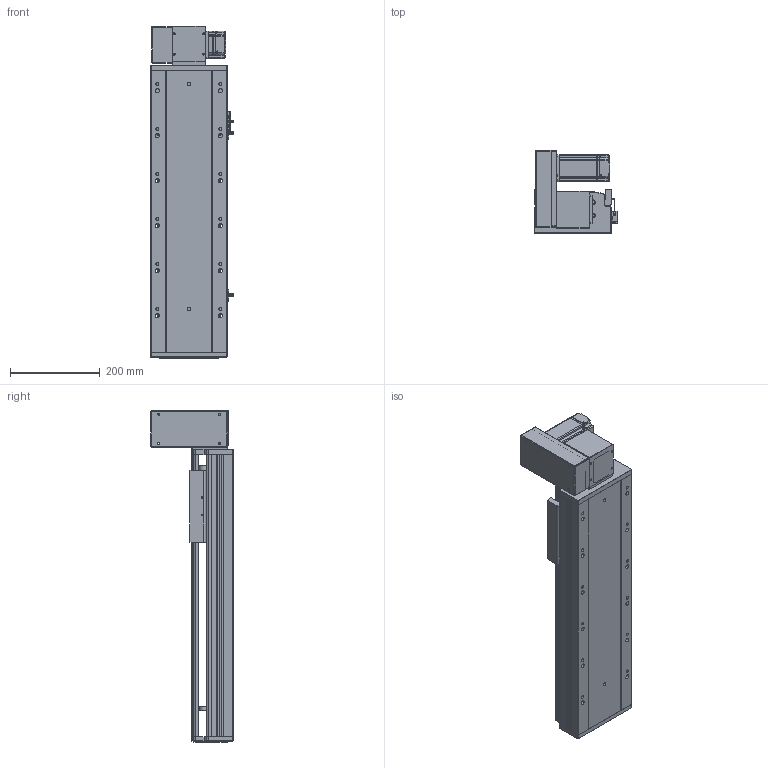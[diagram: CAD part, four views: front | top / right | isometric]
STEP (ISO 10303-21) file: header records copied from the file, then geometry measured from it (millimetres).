
FILE_DESCRIPTION (( 'STEP AP203' ), '1' );
FILE_NAME ('RY170-T-300-UL-P400W.SLDASM_350.step', '2021-03-02T02:12:01', ( '盈信电脑' ), ( '东莞市道滘镇水果街19号' ), 'SwSTEP 2.0', 'SolidWorks 2012', '' );
FILE_SCHEMA (( 'CONFIG_CONTROL_DESIGN' ));
Length unit declared in the file: millimetre
Products named in the file (18): 15; RY170-T-300-UL-P400W.SLDASM_350; RY170-T蹟翐M4; RY170肮祭謫萇儂欶; RY170同步轮电机安装板(400W); RY120-T主同步轮轴承压盖; RY170-T肮祭謫裔啣; RY170-T肮祭湍揤踡輸2; 滅袉蝶18-10; RY170-T肮祭湍揤踡輸1; RY170翋肮祭謫釱; RY170肮祭謫ヶ裔啣; 覜茼ん672; RY170外置感应片(200共用）; RY170肮祭湍臏賑輸; RY170綴裔啣; RY170-T-300肮祭謫倰第裔啣-DL_350; RY170-T-300肮祭謫倰第菁釱-DL_350
Assembly tree (20 placements, depth 2):
  RY170-T-300-UL-P400W.SLDASM_350
    RY170-T-300肮祭謫倰第菁釱-DL_350
    RY170肮祭湍臏賑輸
    RY170-T-300肮祭謫倰第裔啣-DL_350
    RY170綴裔啣
    覜茼ん672  x3
    RY170外置感应片(200共用）
    RY170肮祭謫ヶ裔啣
    RY170翋肮祭謫釱
    RY170-T肮祭湍揤踡輸1
    RY170-T肮祭湍揤踡輸2
    RY170-T肮祭謫裔啣
    滅袉蝶18-10  x2
    RY120-T主同步轮轴承压盖
    RY170肮祭謫萇儂欶
    RY170同步轮电机安装板(400W)
    RY170-T蹟翐M4
    15
Bounding box: 183.7 x 184 x 738 mm (x, y, z)
Volume: 4162075.4 mm3; surface area: 1364329.9 mm2
Topology: 20 solids, 20 shells, 2449 faces, 6798 edges, 4377 vertices
Faces by surface type: plane 1143, cylinder 1080, cone 196, bspline 30
Entity records: 77528 total; most frequent: CARTESIAN_POINT 16951, ORIENTED_EDGE 12320, DIRECTION 12152, EDGE_CURVE 6160, AXIS2_PLACEMENT_3D 4240, VERTEX_POINT 4045, LINE 3672, VECTOR 3672
